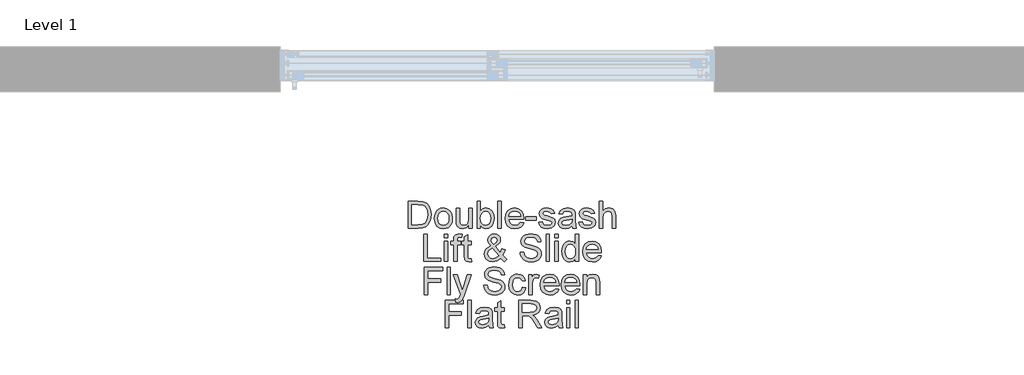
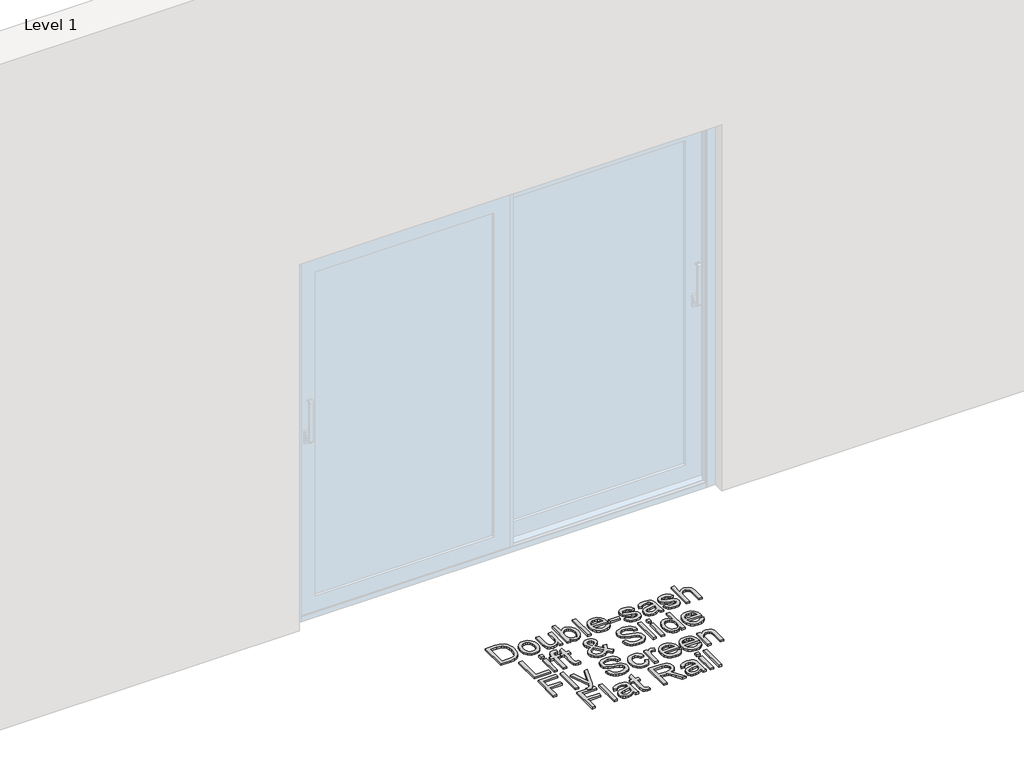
# One storey, part 6 of 11: 1 proxy.
"""IFC4 building model written with IfcOpenShell, lengths in millimetres."""

from ifc_helpers import new_model, si_unit, origin, origin_with_axes, place, context, project, spatial, polyline, outline, extrude, element, save

model = new_model("IFC4")

# Units and contexts
model_context = context("Model", 3, world=origin())
ifc_project = project(units=[si_unit("LENGTHUNIT", "METRE", prefix="MILLI")], contexts=[model_context])

# Site, building, storey
site = spatial("IfcSite", under=ifc_project)
building = spatial("IfcBuilding", under=site)
storey = spatial("IfcBuildingStorey", under=building, Name="Level 1", Elevation=0.0)

# Proxy
placement = place(None, origin())
element("IfcBuildingElementProxy", 1, Name="150mm Arial", ObjectType="150mm Arial", at=placement, inside=storey, context=model_context, shape_type="SweptSolid", body=[
    extrude(outline(polyline([(2688.4009515, -897.6627533), (2688.4009515, -746.9782881), (2740.3826774, -746.9782881), (2767.2748513, -749.1487919), (2789.4213474, -759.9277343), (2799.8416049, -771.4056526), (2807.2636242, -785.679474), (2811.7057993, -802.4732871), (2813.1865243, -821.5111803), (2809.1766105, -851.9166272), (2798.8759147, -873.8607883), (2785.1171281, -887.5276044), (2767.1093044, -895.0875794), (2742.884275, -897.6627533), (2688.4009515, -897.6627533)]), holes=[polyline([(2707.2365097, -878.8271952), (2740.5666184, -878.8271952), (2764.8100419, -876.1048684), (2778.7895577, -868.4161347), (2790.2490819, -849.7093353), (2794.3509661, -821.2168747), (2792.3414107, -800.6890594), (2786.3127445, -785.5323212), (2777.4054017, -775.1212607), (2766.7598165, -768.8304786), (2740.0515836, -765.8138463), (2707.2365097, -765.8138463), (2707.2365097, -878.8271952)])]), origin_with_axes(), (0.0, 0.0, 1.0), 10.0),
    extrude(outline(polyline([(2832.0220824, -842.3333013), (2836.0963755, -815.6526596), (2848.3192548, -796.8998749), (2863.4208107, -787.712022), (2881.5022108, -784.6494044), (2901.2896636, -788.3788081), (2917.0947938, -799.5670193), (2927.4552705, -817.3311212), (2930.9087627, -840.7881969), (2929.3820525, -859.8168931), (2924.8019216, -874.3022466), (2917.3017274, -885.150167), (2907.0148272, -893.2665635), (2894.7965464, -898.3295395), (2881.5022108, -900.0171981), (2861.4756347, -896.30159), (2845.6888986, -885.1547655), (2835.4387865, -867.0181831), (2832.0220824, -842.3333013)]), holes=[polyline([(2850.8576406, -842.2965131), (2853.0373414, -859.343245), (2859.5764439, -871.4879494), (2869.4172873, -878.7582173), (2881.5022108, -881.18164), (2893.531952, -878.7444217), (2903.3544013, -871.4327671), (2909.8935038, -859.1271143), (2912.0732046, -841.7079019), (2909.8797082, -825.1578106), (2903.299219, -813.1786531), (2893.4629742, -805.9083852), (2881.5022108, -803.4849626), (2869.4172873, -805.8991882), (2859.5764439, -813.141865), (2853.0373414, -825.2589782), (2850.8576406, -842.2965131)])]), origin_with_axes(), (0.0, 0.0, 1.0), 10.0),
    extrude(outline(polyline([(3022.7321087, -897.6627533), (3022.7321087, -878.6432542), (3007.9800407, -894.6737121), (2988.7398124, -900.0171981), (2971.0262943, -896.2648018), (2958.8126121, -886.8470227), (2953.2024117, -872.9778715), (2952.0987657, -855.4666885), (2952.0987657, -787.0038492), (2970.9343238, -787.0038492), (2970.9343238, -846.6007324), (2972.074758, -865.8041726), (2979.5243684, -877.0797557), (2993.5590665, -881.18164), (3009.2860218, -876.9877852), (3019.6786882, -865.5650493), (3022.7321087, -844.5773814), (3022.7321087, -787.0038492), (3041.5676669, -787.0038492), (3041.5676669, -897.6627533), (3022.7321087, -897.6627533)])), origin_with_axes(), (0.0, 0.0, 1.0), 10.0),
    extrude(outline(polyline([(3086.3021175, -897.6627533), (3067.4665594, -897.6627533), (3067.4665594, -746.9782881), (3086.3021175, -746.9782881), (3086.3021175, -802.8595632), (3099.490687, -789.2019441), (3115.8798299, -784.6494044), (3134.7521763, -788.7512887), (3149.3938797, -800.2843892), (3158.3885945, -818.2186365), (3161.6443501, -840.6778323), (3158.2736313, -865.8225667), (3148.161475, -884.5293661), (3133.322035, -896.1452401), (3115.7694653, -900.0171981), (3099.0216375, -895.0232), (3086.3021175, -880.0412058), (3086.3021175, -897.6627533)]), holes=[polyline([(3086.3021175, -841.5607491), (3087.5897045, -857.2693103), (3091.4524654, -867.9010999), (3101.3209, -877.861505), (3114.1507845, -881.18164), (3125.0216975, -878.7352247), (3134.3107179, -871.3959789), (3140.6842734, -859.2098878), (3142.808792, -842.2229367), (3140.7716454, -824.9876652), (3134.6602058, -812.9395299), (3125.6608925, -805.8486044), (3114.9601249, -803.4849626), (3104.089212, -805.9313778), (3094.8001916, -813.2706236), (3088.426636, -825.2359855), (3086.3021175, -841.5607491)])]), origin_with_axes(), (0.0, 0.0, 1.0), 10.0),
    extrude(outline(polyline([(3182.834353, -897.6627533), (3182.834353, -746.9782881), (3201.6699112, -746.9782881), (3201.6699112, -897.6627533), (3182.834353, -897.6627533)])), origin_with_axes(), (0.0, 0.0, 1.0), 10.0),
    extrude(outline(polyline([(3307.3991966, -864.7005266), (3325.8668728, -867.0549713), (3319.2128072, -880.9701078), (3308.5948131, -891.3719712), (3294.2520138, -897.8558914), (3276.4235326, -900.0171981), (3254.3230218, -896.2877944), (3237.3176765, -885.0995832), (3226.4743547, -867.1791315), (3222.8599141, -843.2530063), (3226.5111429, -818.5221391), (3237.4648293, -800.0268718), (3254.2402483, -788.4937713), (3275.3566748, -784.6494044), (3295.8155123, -788.4845742), (3312.1632684, -799.9900836), (3322.8824301, -818.4485627), (3326.455484, -843.1426417), (3326.3451194, -848.2194132), (3241.6954723, -848.2194132), (3244.9558265, -862.3184907), (3252.529597, -872.6835659), (3263.4602908, -879.0571214), (3276.7914146, -881.18164), (3295.2590908, -877.2453026), (3307.3991966, -864.7005266)]), holes=[polyline([(3241.6954723, -829.383855), (3307.6199258, -829.383855), (3305.072343, -819.4326471), (3300.0783449, -812.3141305), (3289.0970674, -805.6922545), (3275.2830984, -803.4849626), (3262.5865711, -805.2461976), (3252.0881386, -810.5299028), (3244.7902796, -818.765861), (3241.6954723, -829.383855)])]), origin_with_axes(), (0.0, 0.0, 1.0), 10.0),
    extrude(outline(polyline([(3335.873263, -852.9283027), (3335.873263, -834.0927446), (3394.7343823, -834.0927446), (3394.7343823, -852.9283027), (3335.873263, -852.9283027)])), origin_with_axes(), (0.0, 0.0, 1.0), 10.0),
    extrude(outline(polyline([(3408.8610509, -864.7005266), (3427.696609, -862.3460818), (3430.6672561, -870.4026975), (3436.4154123, -876.3255976), (3456.3914047, -881.18164), (3475.5948448, -876.7302678), (3481.8488387, -866.2824192), (3480.2761432, -861.4815591), (3475.5580566, -857.8211333), (3456.1706755, -852.4500561), (3427.8069736, -843.2346122), (3415.4277445, -832.4740638), (3411.2154956, -817.2805374), (3414.60001, -803.2458393), (3423.8338481, -792.5220791), (3435.808407, -786.9486669), (3452.0136089, -784.6494044), (3474.9326572, -788.3466185), (3489.5007842, -798.3530087), (3495.9755073, -815.2571864), (3477.1399492, -817.6116312), (3470.0582208, -807.2189648), (3453.4851369, -803.4849626), (3435.4589191, -807.0534179), (3430.0510538, -815.367551), (3432.295134, -820.8489927), (3439.3216801, -825.0060593), (3455.5452761, -829.015973), (3483.191608, -837.8819291), (3496.0306896, -847.9251076), (3500.6843969, -864.2958564), (3495.2213492, -882.3220741), (3479.4576058, -895.4002791), (3456.1338873, -900.0171981), (3437.1419793, -897.791512), (3423.2820251, -891.1144538), (3414.0297929, -880.0595999), (3408.8610509, -864.7005266)])), origin_with_axes(), (0.0, 0.0, 1.0), 10.0),
    extrude(outline(polyline([(3592.5077429, -883.5360847), (3574.2424018, -896.30159), (3554.0640744, -900.0171981), (3538.3233235, -897.782315), (3526.712048, -891.0776656), (3519.5521447, -880.8965314), (3517.1655103, -868.2321937), (3520.7707538, -853.3329729), (3530.2437152, -842.5172423), (3543.4322847, -836.3368247), (3559.7294571, -833.5041334), (3592.3973783, -827.0294103), (3592.5077429, -822.8355555), (3591.2109588, -814.4294519), (3587.3206067, -808.9296161), (3578.6201976, -804.846126), (3566.4984858, -803.4849626), (3547.4421985, -807.1086002), (3538.3555132, -819.966076), (3519.519955, -817.6116312), (3527.6685412, -799.2175314), (3544.0760782, -788.438589), (3568.926507, -784.6494044), (3591.7535848, -787.9971306), (3604.6478487, -796.4032342), (3610.423596, -809.1871335), (3611.343301, -825.6682469), (3611.343301, -849.10233), (3612.2997942, -881.8254334), (3616.0521906, -897.6627533), (3597.2166324, -897.6627533), (3592.5077429, -883.5360847)]), holes=[polyline([(3592.5077429, -845.8649684), (3562.1206901, -851.6407157), (3545.9154882, -854.6941363), (3538.5762424, -859.6605432), (3536.0010684, -866.9078185), (3541.6112688, -877.0981498), (3558.0739881, -881.18164), (3577.1302755, -876.6750855), (3589.4175341, -865.7673844), (3592.3973783, -851.1992574), (3592.5077429, -845.8649684)])]), origin_with_axes(), (0.0, 0.0, 1.0), 10.0),
    extrude(outline(polyline([(3630.1788592, -864.7005266), (3649.0144173, -862.3460818), (3651.9850644, -870.4026975), (3657.7332206, -876.3255976), (3677.709213, -881.18164), (3696.9126531, -876.7302678), (3703.166647, -866.2824192), (3701.5939515, -861.4815591), (3696.8758649, -857.8211333), (3677.4884838, -852.4500561), (3649.1247819, -843.2346122), (3636.7455528, -832.4740638), (3632.5333039, -817.2805374), (3635.9178183, -803.2458393), (3645.1516564, -792.5220791), (3657.1262153, -786.9486669), (3673.3314172, -784.6494044), (3696.2504655, -788.3466185), (3710.8185925, -798.3530087), (3717.2933156, -815.2571864), (3698.4577575, -817.6116312), (3691.3760291, -807.2189648), (3674.8029452, -803.4849626), (3656.7767274, -807.0534179), (3651.3688621, -815.367551), (3653.6129423, -820.8489927), (3660.6394884, -825.0060593), (3676.8630844, -829.015973), (3704.5094163, -837.8819291), (3717.3484979, -847.9251076), (3722.0022052, -864.2958564), (3716.5391575, -882.3220741), (3700.7754141, -895.4002791), (3677.4516956, -900.0171981), (3658.4597876, -897.791512), (3644.5998334, -891.1144538), (3635.3476012, -880.0595999), (3630.1788592, -864.7005266)])), origin_with_axes(), (0.0, 0.0, 1.0), 10.0),
    extrude(outline(polyline([(3743.1922081, -897.6627533), (3743.1922081, -746.9782881), (3762.0277662, -746.9782881), (3762.0277662, -802.3813166), (3776.7154549, -789.0823825), (3794.806052, -784.6494044), (3815.9592667, -789.4870527), (3828.7983484, -802.8595632), (3832.6611093, -827.6180215), (3832.6611093, -897.6627533), (3813.8255512, -897.6627533), (3813.8255512, -829.567796), (3812.326432, -817.7771781), (3807.8290746, -809.7021683), (3800.5817993, -805.039264), (3790.8329265, -803.4849626), (3775.4002768, -807.6788173), (3765.0995809, -819.046371), (3762.0277662, -838.8752105), (3762.0277662, -897.6627533), (3743.1922081, -897.6627533)])), origin_with_axes(), (0.0, 0.0, 1.0), 10.0),
    extrude(outline(polyline([(2773.1609632, -1080.6249801), (2773.1609632, -929.9405149), (2791.9965214, -929.9405149), (2791.9965214, -1061.789422), (2867.338754, -1061.789422), (2867.338754, -1080.6249801), (2773.1609632, -1080.6249801)])), origin_with_axes(), (0.0, 0.0, 1.0), 10.0),
    extrude(outline(polyline([(2886.1743121, -948.776073), (2886.1743121, -929.9405149), (2905.0098703, -929.9405149), (2905.0098703, -948.776073), (2886.1743121, -948.776073)])), origin_with_axes(), (0.0, 0.0, 1.0), 10.0),
    extrude(outline(polyline([(2886.1743121, -1080.6249801), (2886.1743121, -969.966076), (2905.0098703, -969.966076), (2905.0098703, -1080.6249801), (2886.1743121, -1080.6249801)])), origin_with_axes(), (0.0, 0.0, 1.0), 10.0),
    extrude(outline(polyline([(2937.9720971, -1080.6249801), (2937.9720971, -988.8016341), (2921.4909837, -988.8016341), (2921.4909837, -969.966076), (2937.9720971, -969.966076), (2937.9720971, -958.8192515), (2939.9586598, -943.1106903), (2949.5971681, -931.8902895), (2968.5798791, -927.5860701), (2985.7599682, -929.6462093), (2983.0008533, -947.3045451), (2972.1483344, -946.4216283), (2960.2841401, -949.5486252), (2956.8076552, -961.2104845), (2956.8076552, -969.966076), (2977.9976581, -969.966076), (2977.9976581, -988.8016341), (2956.8076552, -988.8016341), (2956.8076552, -1080.6249801), (2937.9720971, -1080.6249801)])), origin_with_axes(), (0.0, 0.0, 1.0), 10.0),
    extrude(outline(polyline([(3034.5043326, -1064.9164189), (3036.8587774, -1081.1768031), (3022.7688969, -1082.9794249), (3006.9867593, -1079.8524279), (2999.1140847, -1071.6486594), (2996.8332163, -1050.2747155), (2996.8332163, -988.8016341), (2982.7065477, -988.8016341), (2982.7065477, -969.966076), (2996.8332163, -969.966076), (2996.8332163, -943.0739021), (3015.6687744, -932.0006541), (3015.6687744, -969.966076), (3034.5043326, -969.966076), (3034.5043326, -988.8016341), (3015.6687744, -988.8016341), (3015.6687744, -1049.7228925), (3016.6620558, -1059.4349772), (3019.8810233, -1062.8746738), (3026.3005641, -1064.1438667), (3034.5043326, -1064.9164189)])), origin_with_axes(), (0.0, 0.0, 1.0), 10.0),
    extrude(outline(polyline([(3198.6164906, -1062.0101512), (3178.6404983, -1077.7371064), (3155.2799916, -1082.9794249), (3134.4946589, -1079.0982698), (3118.4917921, -1067.4548047), (3110.2420383, -1054.054703), (3107.4921204, -1039.1646793), (3109.7040109, -1025.9669127), (3116.3396824, -1014.1119154), (3127.3715437, -1003.6088844), (3142.7720038, -994.4670168), (3129.6202224, -975.4107295), (3126.3276786, -961.2840609), (3128.9212467, -948.5645409), (3136.7019508, -937.6292486), (3148.4097953, -930.0968647), (3162.7847843, -927.5860701), (3176.4607975, -929.9865001), (3187.3960898, -937.1877902), (3194.5697887, -947.7552005), (3196.9610217, -960.2539913), (3195.1905896, -970.7478252), (3189.8792933, -980.4507128), (3168.634108, -997.4836492), (3195.8941639, -1031.4391574), (3204.024356, -1010.5802482), (3222.8599141, -1014.6637384), (3209.5425859, -1045.6761906), (3232.2776932, -1068.4848743), (3218.1510246, -1082.9794249), (3198.6164906, -1062.0101512)]), holes=[polyline([(3159.1059644, -985.6010608), (3174.5937964, -973.9208074), (3178.1254635, -962.8291653), (3173.4717563, -951.0017591), (3161.8282911, -946.4216283), (3149.9273086, -950.9649709), (3145.1632367, -962.0566131), (3146.7819175, -968.9544005), (3151.6747481, -976.6247401), (3159.1059644, -985.6010608)]), polyline([(3185.9981382, -1048.4353055), (3152.3737238, -1006.4599699), (3131.6803616, -1022.2421075), (3126.3276786, -1036.6630817), (3128.1578915, -1045.5474319), (3133.6485303, -1054.7628758), (3142.4960923, -1061.798619), (3154.3970748, -1064.1438667), (3171.7059227, -1059.766071), (3185.9981382, -1048.4353055)])]), origin_with_axes(), (0.0, 0.0, 1.0), 10.0),
    extrude(outline(polyline([(3305.265481, -1028.8271952), (3324.1010392, -1028.8271952), (3330.1710921, -1047.6811474), (3344.9967365, -1059.6005241), (3367.584691, -1064.1438667), (3387.2663778, -1060.7041701), (3399.9767007, -1051.2496028), (3404.1521613, -1038.6128563), (3401.0251644, -1026.8590265), (3388.222871, -1018.3057701), (3360.7972682, -1011.1136771), (3331.2747381, -1001.8246567), (3315.2534772, -987.8083527), (3309.9743706, -969.0831592), (3311.6068469, -958.0512978), (3316.504276, -947.7643976), (3324.5378991, -939.0455943), (3335.5789574, -932.7180239), (3363.5012009, -927.5860701), (3393.2996425, -932.9571472), (3404.7223784, -939.5882202), (3413.1652702, -948.7392848), (3418.5087562, -959.840124), (3420.6332747, -972.3205207), (3401.7977166, -972.3205207), (3398.3396258, -961.0817258), (3391.1291387, -952.9699278), (3379.8627526, -948.0587031), (3364.2369649, -946.4216283), (3348.2432951, -948.040309), (3337.2712146, -952.8963514), (3330.9252502, -960.0424591), (3328.8099287, -968.5313362), (3330.3090479, -975.7694144), (3334.8064053, -981.591147), (3365.56134, -992.1125721), (3398.8914488, -1001.5671393), (3409.6290045, -1008.4005474), (3417.1200017, -1016.8342421), (3421.52079, -1026.7762531), (3422.9877195, -1038.1346097), (3421.3000608, -1049.7458851), (3416.2370849, -1060.6673819), (3408.0057252, -1070.0667668), (3396.8129155, -1077.1117071), (3383.353033, -1081.5124954), (3368.320455, -1082.9794249), (3349.8665744, -1081.3975323), (3334.6776466, -1076.6518546), (3322.5789274, -1068.7239976), (3313.3956731, -1057.5955672), (3307.5003642, -1044.0391157), (3305.265481, -1028.8271952)])), origin_with_axes(), (0.0, 0.0, 1.0), 10.0),
    extrude(outline(polyline([(3448.886612, -1080.6249801), (3448.886612, -929.9405149), (3467.7221701, -929.9405149), (3467.7221701, -1080.6249801), (3448.886612, -1080.6249801)])), origin_with_axes(), (0.0, 0.0, 1.0), 10.0),
    extrude(outline(polyline([(3495.9755073, -948.776073), (3495.9755073, -929.9405149), (3514.8110655, -929.9405149), (3514.8110655, -948.776073), (3495.9755073, -948.776073)])), origin_with_axes(), (0.0, 0.0, 1.0), 10.0),
    extrude(outline(polyline([(3495.9755073, -1080.6249801), (3495.9755073, -969.966076), (3514.8110655, -969.966076), (3514.8110655, -1080.6249801), (3495.9755073, -1080.6249801)])), origin_with_axes(), (0.0, 0.0, 1.0), 10.0),
    extrude(outline(polyline([(3611.343301, -1080.6249801), (3611.343301, -1062.8562797), (3598.8812984, -1077.9486386), (3581.655224, -1082.9794249), (3569.47833, -1081.158409), (3558.3315055, -1075.6953614), (3548.8953323, -1066.9719596), (3541.8503921, -1055.3698811), (3537.4633993, -1041.3581756), (3536.0010684, -1025.4058926), (3541.3905396, -995.42351), (3548.1227802, -983.5317245), (3557.5405592, -974.7853301), (3568.9311055, -969.4050559), (3581.5816476, -967.6116312), (3598.9456778, -972.743585), (3611.343301, -986.0793073), (3611.343301, -929.9405149), (3630.1788592, -929.9405149), (3630.1788592, -1080.6249801), (3611.343301, -1080.6249801)]), holes=[polyline([(3554.8366266, -1025.3323162), (3556.9611451, -1042.3698511), (3563.3347007, -1054.4869644), (3572.5961299, -1061.7296411), (3583.3842694, -1064.1438667), (3594.1678104, -1061.8400057), (3603.1947148, -1054.9284227), (3609.3061545, -1043.2803591), (3611.343301, -1026.767056), (3609.2693663, -1008.7132471), (3603.047562, -996.1960622), (3593.7907313, -988.8844076), (3582.6117172, -986.4471893), (3571.7132131, -988.7878385), (3562.7828777, -995.8097861), (3556.8231893, -1007.871717), (3554.8366266, -1025.3323162)])]), origin_with_axes(), (0.0, 0.0, 1.0), 10.0),
    extrude(outline(polyline([(3735.9081446, -1047.6627533), (3754.3758208, -1050.0171981), (3747.7217552, -1063.9323346), (3737.1037611, -1074.334198), (3722.7609618, -1080.8181182), (3704.9324806, -1082.9794249), (3682.8319697, -1079.2500212), (3665.8266245, -1068.06181), (3654.9833027, -1050.1413583), (3651.3688621, -1026.215233), (3655.0200909, -1001.4843659), (3665.9737773, -982.9890986), (3682.7491963, -971.455998), (3703.8656228, -967.6116312), (3724.3244603, -971.446801), (3740.6722164, -982.9523104), (3751.3913781, -1001.4107895), (3754.9644319, -1026.1048684), (3754.8540673, -1031.18164), (3670.2044203, -1031.18164), (3673.4647744, -1045.2807174), (3681.038545, -1055.6457926), (3691.9692388, -1062.0193482), (3705.3003626, -1064.1438667), (3723.7680388, -1060.2075294), (3735.9081446, -1047.6627533)]), holes=[polyline([(3670.2044203, -1012.3460818), (3736.1288738, -1012.3460818), (3733.581291, -1002.3948738), (3728.5872929, -995.2763572), (3717.6060153, -988.6544813), (3703.7920464, -986.4471893), (3691.0955191, -988.2084244), (3680.5970866, -993.4921296), (3673.2992275, -1001.7280877), (3670.2044203, -1012.3460818)])]), origin_with_axes(), (0.0, 0.0, 1.0), 10.0),
    extrude(outline(polyline([(2776.6926304, -1263.5872069), (2776.6926304, -1112.9027417), (2877.9337554, -1112.9027417), (2877.9337554, -1131.7382998), (2795.5281885, -1131.7382998), (2795.5281885, -1176.4727504), (2866.1615316, -1176.4727504), (2866.1615316, -1195.3083086), (2795.5281885, -1195.3083086), (2795.5281885, -1263.5872069), (2776.6926304, -1263.5872069)])), origin_with_axes(), (0.0, 0.0, 1.0), 10.0),
    extrude(outline(polyline([(2901.4782031, -1263.5872069), (2901.4782031, -1112.9027417), (2920.3137613, -1112.9027417), (2920.3137613, -1263.5872069), (2901.4782031, -1263.5872069)])), origin_with_axes(), (0.0, 0.0, 1.0), 10.0),
    extrude(outline(polyline([(2948.5670985, -1305.9672127), (2946.2126537, -1287.8306304), (2955.7775856, -1289.4860993), (2964.7171181, -1287.4075661), (2970.1985598, -1281.6134246), (2975.3489078, -1267.7442734), (2976.8204357, -1263.1825367), (2936.7948747, -1152.9283027), (2956.6605024, -1152.9283027), (2977.8872935, -1214.3645959), (2985.2817216, -1238.9391132), (2992.6761497, -1217.2340755), (3014.4915521, -1152.9283027), (3034.210027, -1152.9283027), (2995.6927821, -1266.2359572), (2985.6863918, -1290.8104745), (2974.7602966, -1304.0910145), (2960.081805, -1308.3216575), (2948.5670985, -1305.9672127)])), origin_with_axes(), (0.0, 0.0, 1.0), 10.0),
    extrude(outline(polyline([(3103.9604533, -1211.789422), (3122.7960114, -1211.789422), (3128.8660644, -1230.6433742), (3143.6917088, -1242.5627509), (3166.2796633, -1247.1060935), (3185.96135, -1243.6663968), (3198.6716729, -1234.2118296), (3202.8471336, -1221.575083), (3199.7201366, -1209.8212533), (3186.9178432, -1201.2679969), (3159.4922404, -1194.0759039), (3129.9697103, -1184.7868835), (3113.9484494, -1170.7705795), (3108.6693428, -1152.0453859), (3110.3018192, -1141.0135246), (3115.1992482, -1130.7266243), (3123.2328713, -1122.007821), (3134.2739297, -1115.6802507), (3162.1961731, -1110.5482969), (3191.9946147, -1115.919374), (3203.4173507, -1122.550447), (3211.8602425, -1131.7015116), (3217.2037284, -1142.8023508), (3219.328247, -1155.2827475), (3200.4926888, -1155.2827475), (3197.0345981, -1144.0439525), (3189.824111, -1135.9321546), (3178.5577248, -1131.0209299), (3162.9319371, -1129.383855), (3146.9382674, -1131.0025358), (3135.9661869, -1135.8585782), (3129.6202224, -1143.0046859), (3127.504901, -1151.4935629), (3129.0040201, -1158.7316412), (3133.5013775, -1164.5533738), (3164.2563123, -1175.0747988), (3197.5864211, -1184.5293661), (3208.3239768, -1191.3627742), (3215.8149739, -1199.7964689), (3220.2157623, -1209.7384798), (3221.6826917, -1221.0968364), (3219.9950331, -1232.7081119), (3214.9320571, -1243.6296086), (3206.7006975, -1253.0289936), (3195.5078878, -1260.0739338), (3182.0480053, -1264.4747222), (3167.0154273, -1265.9416516), (3148.5615467, -1264.3597591), (3133.3726188, -1259.6140813), (3121.2738997, -1251.6862243), (3112.0906454, -1240.557794), (3106.1953364, -1227.0013425), (3103.9604533, -1211.789422)])), origin_with_axes(), (0.0, 0.0, 1.0), 10.0),
    extrude(outline(polyline([(3318.2149273, -1223.5616458), (3337.0504854, -1225.9160906), (3331.7989699, -1242.6685169), (3321.9305354, -1255.3282561), (3308.3740839, -1263.2883028), (3292.0585174, -1265.9416516), (3272.0227442, -1262.2398391), (3256.3555698, -1251.1344013), (3246.2434134, -1233.1127821), (3242.8726947, -1208.662425), (3244.312033, -1191.9008016), (3248.6300479, -1177.3740613), (3255.8957173, -1165.6432242), (3266.1780191, -1157.2693103), (3278.4790733, -1152.247721), (3291.801, -1150.573858), (3307.7164948, -1152.8731204), (3320.4406133, -1159.7709078), (3329.5686853, -1170.8993382), (3334.6960407, -1185.8905295), (3315.8604825, -1188.2449743), (3307.1232851, -1174.1366998), (3291.9481528, -1169.4094161), (3279.7758573, -1171.7362697), (3270.1143564, -1178.7168306), (3263.8097787, -1190.7281777), (3261.7082528, -1208.1473902), (3263.7637935, -1225.8011274), (3269.9304154, -1237.8538613), (3279.4171724, -1244.7930354), (3291.433118, -1247.1060935), (3301.1865894, -1245.6621567), (3309.1834243, -1241.3303462), (3315.0005583, -1234.0002974), (3318.2149273, -1223.5616458)])), origin_with_axes(), (0.0, 0.0, 1.0), 10.0),
    extrude(outline(polyline([(3353.5315988, -1263.5872069), (3353.5315988, -1152.9283027), (3370.0127122, -1152.9283027), (3370.0127122, -1169.2990515), (3381.7113596, -1154.2158897), (3393.4835835, -1150.573858), (3412.392718, -1156.3863935), (3406.1019359, -1173.2721771), (3392.8581841, -1169.4094161), (3382.2080003, -1173.1250243), (3375.4205775, -1183.4257201), (3372.367157, -1205.4250634), (3372.367157, -1263.5872069), (3353.5315988, -1263.5872069)])), origin_with_axes(), (0.0, 0.0, 1.0), 10.0),
    extrude(outline(polyline([(3501.6408901, -1230.6249801), (3520.1085662, -1232.9794249), (3513.4545006, -1246.8945613), (3502.8365065, -1257.2964248), (3488.4937073, -1263.7803449), (3470.6652261, -1265.9416516), (3448.5647152, -1262.2122479), (3431.55937, -1251.0240367), (3420.7160482, -1233.1035851), (3417.1016076, -1209.1774598), (3420.7528364, -1184.4465927), (3431.7065228, -1165.9513254), (3448.4819418, -1154.4182248), (3469.5983683, -1150.573858), (3490.0572057, -1154.4090278), (3506.4049619, -1165.9145372), (3517.1241235, -1184.3730163), (3520.6971774, -1209.0670952), (3520.5868128, -1214.1438667), (3435.9371657, -1214.1438667), (3439.1975199, -1228.2429442), (3446.7712905, -1238.6080194), (3457.7019843, -1244.981575), (3471.0331081, -1247.1060935), (3489.5007842, -1243.1697561), (3501.6408901, -1230.6249801)]), holes=[polyline([(3435.9371657, -1195.3083086), (3501.8616193, -1195.3083086), (3499.3140364, -1185.3571006), (3494.3200384, -1178.238584), (3483.3387608, -1171.6167081), (3469.5247919, -1169.4094161), (3456.8282645, -1171.1706512), (3446.3298321, -1176.4543563), (3439.031973, -1184.6903145), (3435.9371657, -1195.3083086)])]), origin_with_axes(), (0.0, 0.0, 1.0), 10.0),
    extrude(outline(polyline([(3617.0086838, -1230.6249801), (3635.4763599, -1232.9794249), (3628.8222943, -1246.8945613), (3618.2043002, -1257.2964248), (3603.8615009, -1263.7803449), (3586.0330198, -1265.9416516), (3563.9325089, -1262.2122479), (3546.9271637, -1251.0240367), (3536.0838419, -1233.1035851), (3532.4694013, -1209.1774598), (3536.1206301, -1184.4465927), (3547.0743165, -1165.9513254), (3563.8497354, -1154.4182248), (3584.966162, -1150.573858), (3605.4249994, -1154.4090278), (3621.7727556, -1165.9145372), (3632.4919172, -1184.3730163), (3636.0649711, -1209.0670952), (3635.9546065, -1214.1438667), (3551.3049594, -1214.1438667), (3554.5653136, -1228.2429442), (3562.1390842, -1238.6080194), (3573.069778, -1244.981575), (3586.4009018, -1247.1060935), (3604.8685779, -1243.1697561), (3617.0086838, -1230.6249801)]), holes=[polyline([(3551.3049594, -1195.3083086), (3617.2294129, -1195.3083086), (3614.6818301, -1185.3571006), (3609.687832, -1178.238584), (3598.7065545, -1171.6167081), (3584.8925856, -1169.4094161), (3572.1960582, -1171.1706512), (3561.6976258, -1176.4543563), (3554.3997667, -1184.6903145), (3551.3049594, -1195.3083086)])]), origin_with_axes(), (0.0, 0.0, 1.0), 10.0),
    extrude(outline(polyline([(3654.9005293, -1263.5872069), (3654.9005293, -1152.9283027), (3673.7360874, -1152.9283027), (3673.7360874, -1168.3793465), (3688.1386675, -1155.0252301), (3707.8019602, -1150.573858), (3725.5890546, -1154.1607074), (3737.7291605, -1163.5784865), (3743.3761491, -1177.4292436), (3744.3694305, -1195.6394024), (3744.3694305, -1263.5872069), (3725.5338723, -1263.5872069), (3725.5338723, -1198.1777881), (3723.3633686, -1181.5127338), (3715.693029, -1172.70196), (3702.7619768, -1169.4094161), (3691.7301155, -1171.2580231), (3682.326132, -1176.8038442), (3675.8835986, -1187.5184073), (3673.7360874, -1204.8732404), (3673.7360874, -1263.5872069), (3654.9005293, -1263.5872069)])), origin_with_axes(), (0.0, 0.0, 1.0), 10.0),
    extrude(outline(polyline([(2890.8832017, -1446.5494336), (2890.8832017, -1295.8649684), (2992.1243267, -1295.8649684), (2992.1243267, -1314.7005266), (2909.7187598, -1314.7005266), (2909.7187598, -1359.4349772), (2980.3521029, -1359.4349772), (2980.3521029, -1378.2705353), (2909.7187598, -1378.2705353), (2909.7187598, -1446.5494336), (2890.8832017, -1446.5494336)])), origin_with_axes(), (0.0, 0.0, 1.0), 10.0),
    extrude(outline(polyline([(3015.6687744, -1446.5494336), (3015.6687744, -1295.8649684), (3034.5043326, -1295.8649684), (3034.5043326, -1446.5494336), (3015.6687744, -1446.5494336)])), origin_with_axes(), (0.0, 0.0, 1.0), 10.0),
    extrude(outline(polyline([(3133.3910129, -1432.422765), (3115.1256718, -1445.1882703), (3094.9473444, -1448.9038784), (3079.2065935, -1446.6689953), (3067.5953181, -1439.9643459), (3060.4354147, -1429.7832117), (3058.0487803, -1417.118874), (3061.6540238, -1402.2196532), (3071.1269852, -1391.4039226), (3084.3155547, -1385.223505), (3100.6127271, -1382.3908137), (3133.2806483, -1375.9160906), (3133.3910129, -1371.7222358), (3132.0942289, -1363.3161322), (3128.2038768, -1357.8162964), (3119.5034676, -1353.7328063), (3107.3817558, -1352.3716429), (3088.3254685, -1355.9952805), (3079.2387832, -1368.8527563), (3060.403225, -1366.4983115), (3068.5518112, -1348.1042117), (3084.9593482, -1337.3252693), (3109.809777, -1333.5360847), (3132.6368548, -1336.8838109), (3145.5311187, -1345.2899145), (3151.3068661, -1358.0738138), (3152.226571, -1374.5549272), (3152.226571, -1397.9890103), (3153.1830642, -1430.7121138), (3156.9354606, -1446.5494336), (3138.0999024, -1446.5494336), (3133.3910129, -1432.422765)]), holes=[polyline([(3133.3910129, -1394.7516487), (3103.0039601, -1400.527396), (3086.7987582, -1403.5808166), (3079.4595124, -1408.5472235), (3076.8843384, -1415.7944988), (3082.4945389, -1425.9848301), (3098.9572581, -1430.0683203), (3118.0135455, -1425.5617658), (3130.3008041, -1414.6540647), (3133.2806483, -1400.0859377), (3133.3910129, -1394.7516487)])]), origin_with_axes(), (0.0, 0.0, 1.0), 10.0),
    extrude(outline(polyline([(3218.1510246, -1430.8408725), (3220.5054693, -1447.1012566), (3206.4155889, -1448.9038784), (3190.6334513, -1445.7768815), (3182.7607766, -1437.573113), (3180.4799083, -1416.199169), (3180.4799083, -1354.7260876), (3166.3532397, -1354.7260876), (3166.3532397, -1335.8905295), (3180.4799083, -1335.8905295), (3180.4799083, -1308.9983556), (3199.3154664, -1297.9251076), (3199.3154664, -1335.8905295), (3218.1510246, -1335.8905295), (3218.1510246, -1354.7260876), (3199.3154664, -1354.7260876), (3199.3154664, -1415.6473461), (3200.3087478, -1425.3594307), (3203.5277153, -1428.7991274), (3209.9472561, -1430.0683203), (3218.1510246, -1430.8408725)])), origin_with_axes(), (0.0, 0.0, 1.0), 10.0),
    extrude(outline(polyline([(3298.2021467, -1446.5494336), (3298.2021467, -1295.8649684), (3363.1333189, -1295.8649684), (3393.2812484, -1299.9300645), (3402.5610717, -1305.558659), (3409.7623618, -1314.3142505), (3414.3838793, -1325.1713679), (3415.9243852, -1337.1045401), (3413.3722038, -1351.9485786), (3405.7156598, -1364.2542313), (3392.7248269, -1373.2765373), (3374.1697787, -1378.2705353), (3384.8751448, -1386.327151), (3400.1422476, -1405.7145322), (3425.2685879, -1446.5494336), (3403.3796092, -1446.5494336), (3383.7714988, -1415.3162523), (3369.608042, -1394.6412841), (3359.656834, -1384.8740172), (3350.6989074, -1381.2871677), (3339.7728122, -1380.6249801), (3317.0377049, -1380.6249801), (3317.0377049, -1446.5494336), (3298.2021467, -1446.5494336)]), holes=[polyline([(3317.0377049, -1361.789422), (3359.1969815, -1361.789422), (3380.6996841, -1359.1222775), (3392.9133664, -1350.5874152), (3397.088827, -1337.8035159), (3395.0976657, -1328.615663), (3389.1241818, -1321.2120379), (3378.8464786, -1316.3284044), (3363.9426593, -1314.7005266), (3317.0377049, -1314.7005266), (3317.0377049, -1361.789422)])]), origin_with_axes(), (0.0, 0.0, 1.0), 10.0),
    extrude(outline(polyline([(3517.1655103, -1432.422765), (3498.9001692, -1445.1882703), (3478.7218418, -1448.9038784), (3462.9810909, -1446.6689953), (3451.3698154, -1439.9643459), (3444.2099121, -1429.7832117), (3441.8232776, -1417.118874), (3445.4285212, -1402.2196532), (3454.9014826, -1391.4039226), (3468.0900521, -1385.223505), (3484.3872245, -1382.3908137), (3517.0551457, -1375.9160906), (3517.1655103, -1371.7222358), (3515.8687262, -1363.3161322), (3511.9783741, -1357.8162964), (3503.2779649, -1353.7328063), (3491.1562532, -1352.3716429), (3472.0999659, -1355.9952805), (3463.0132806, -1368.8527563), (3444.1777224, -1366.4983115), (3452.3263086, -1348.1042117), (3468.7338456, -1337.3252693), (3493.5842744, -1333.5360847), (3516.4113522, -1336.8838109), (3529.3056161, -1345.2899145), (3535.0813634, -1358.0738138), (3536.0010684, -1374.5549272), (3536.0010684, -1397.9890103), (3536.9575616, -1430.7121138), (3540.709958, -1446.5494336), (3521.8743998, -1446.5494336), (3517.1655103, -1432.422765)]), holes=[polyline([(3517.1655103, -1394.7516487), (3486.7784575, -1400.527396), (3470.5732556, -1403.5808166), (3463.2340098, -1408.5472235), (3460.6588358, -1415.7944988), (3466.2690362, -1425.9848301), (3482.7317555, -1430.0683203), (3501.7880429, -1425.5617658), (3514.0753015, -1414.6540647), (3517.0551457, -1400.0859377), (3517.1655103, -1394.7516487)])]), origin_with_axes(), (0.0, 0.0, 1.0), 10.0),
    extrude(outline(polyline([(3561.8999609, -1314.7005266), (3561.8999609, -1295.8649684), (3580.735519, -1295.8649684), (3580.735519, -1314.7005266), (3561.8999609, -1314.7005266)])), origin_with_axes(), (0.0, 0.0, 1.0), 10.0),
    extrude(outline(polyline([(3561.8999609, -1446.5494336), (3561.8999609, -1335.8905295), (3580.735519, -1335.8905295), (3580.735519, -1446.5494336), (3561.8999609, -1446.5494336)])), origin_with_axes(), (0.0, 0.0, 1.0), 10.0),
    extrude(outline(polyline([(3608.9888563, -1446.5494336), (3608.9888563, -1295.8649684), (3627.8244144, -1295.8649684), (3627.8244144, -1446.5494336), (3608.9888563, -1446.5494336)])), origin_with_axes(), (0.0, 0.0, 1.0), 10.0),
])

save(model, "model.ifc")
